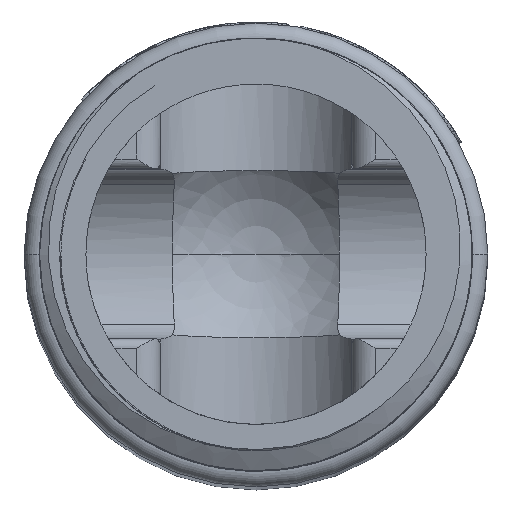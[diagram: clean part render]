
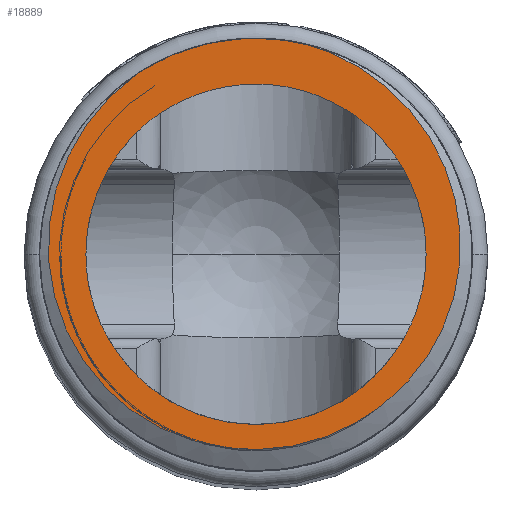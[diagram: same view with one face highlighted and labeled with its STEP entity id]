
A CAD part, top view. The second image highlights one B-rep face of the part: STEP entity #18889.
In plain terms, the highlighted planar face has unit normal (0, 0, 1).
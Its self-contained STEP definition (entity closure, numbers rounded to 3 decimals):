
#5325=CARTESIAN_POINT('',(-4.161,-12.013,78.));
#5326=CARTESIAN_POINT('',(-4.135,-12.02,78.));
#5327=CARTESIAN_POINT('',(-4.082,-12.036,78.));
#5328=CARTESIAN_POINT('',(-3.997,-12.061,78.));
#5329=CARTESIAN_POINT('',(-3.91,-12.085,78.));
#5330=CARTESIAN_POINT('',(-3.825,-12.109,78.));
#5331=CARTESIAN_POINT('',(-3.742,-12.132,78.));
#5332=CARTESIAN_POINT('',(-3.66,-12.154,78.));
#5333=CARTESIAN_POINT('',(-3.576,-12.175,78.));
#5334=CARTESIAN_POINT('',(-3.49,-12.197,78.));
#5335=CARTESIAN_POINT('',(-3.399,-12.22,78.));
#5336=CARTESIAN_POINT('',(-3.302,-12.244,78.));
#5337=CARTESIAN_POINT('',(-3.197,-12.268,78.));
#5338=CARTESIAN_POINT('',(-3.083,-12.294,78.));
#5339=CARTESIAN_POINT('',(-2.956,-12.322,78.));
#5340=CARTESIAN_POINT('',(-2.817,-12.351,78.));
#5341=CARTESIAN_POINT('',(-2.663,-12.381,78.));
#5342=CARTESIAN_POINT('',(-2.492,-12.413,78.));
#5343=CARTESIAN_POINT('',(-2.302,-12.446,78.));
#5344=CARTESIAN_POINT('',(-2.092,-12.478,78.));
#5345=CARTESIAN_POINT('',(-1.86,-12.511,78.));
#5346=CARTESIAN_POINT('',(-1.604,-12.542,78.));
#5347=CARTESIAN_POINT('',(-1.323,-12.571,78.));
#5348=CARTESIAN_POINT('',(-1.014,-12.595,78.));
#5349=CARTESIAN_POINT('',(-0.676,-12.614,78.));
#5350=CARTESIAN_POINT('',(-0.307,-12.625,78.));
#5351=CARTESIAN_POINT('',(0.094,-12.624,78.));
#5352=CARTESIAN_POINT('',(0.523,-12.611,78.));
#5353=CARTESIAN_POINT('',(0.973,-12.582,78.));
#5354=CARTESIAN_POINT('',(1.435,-12.536,78.));
#5355=CARTESIAN_POINT('',(1.903,-12.472,78.));
#5356=CARTESIAN_POINT('',(2.369,-12.391,78.));
#5357=CARTESIAN_POINT('',(2.825,-12.296,78.));
#5358=CARTESIAN_POINT('',(3.266,-12.187,78.));
#5359=CARTESIAN_POINT('',(3.683,-12.069,78.));
#5360=CARTESIAN_POINT('',(4.072,-11.946,78.));
#5361=CARTESIAN_POINT('',(4.432,-11.82,78.));
#5362=CARTESIAN_POINT('',(4.766,-11.693,78.));
#5363=CARTESIAN_POINT('',(5.073,-11.566,78.));
#5364=CARTESIAN_POINT('',(5.357,-11.441,78.));
#5365=CARTESIAN_POINT('',(5.619,-11.319,78.));
#5366=CARTESIAN_POINT('',(5.86,-11.2,78.));
#5367=CARTESIAN_POINT('',(6.081,-11.086,78.));
#5368=CARTESIAN_POINT('',(6.284,-10.976,78.));
#5369=CARTESIAN_POINT('',(6.47,-10.872,78.));
#5370=CARTESIAN_POINT('',(6.642,-10.772,78.));
#5371=CARTESIAN_POINT('',(6.799,-10.678,78.));
#5372=CARTESIAN_POINT('',(6.945,-10.589,78.));
#5373=CARTESIAN_POINT('',(7.078,-10.504,78.));
#5374=CARTESIAN_POINT('',(7.202,-10.424,78.));
#5375=CARTESIAN_POINT('',(7.317,-10.347,78.));
#5376=CARTESIAN_POINT('',(7.425,-10.275,78.));
#5377=CARTESIAN_POINT('',(7.526,-10.205,78.));
#5378=CARTESIAN_POINT('',(7.622,-10.138,78.));
#5379=CARTESIAN_POINT('',(7.712,-10.074,78.));
#5380=CARTESIAN_POINT('',(7.797,-10.013,78.));
#5381=CARTESIAN_POINT('',(7.877,-9.954,78.));
#5382=CARTESIAN_POINT('',(7.953,-9.898,78.));
#5383=CARTESIAN_POINT('',(8.024,-9.845,78.));
#5384=CARTESIAN_POINT('',(8.091,-9.794,78.));
#5385=CARTESIAN_POINT('',(8.153,-9.746,78.));
#5386=CARTESIAN_POINT('',(8.212,-9.701,78.));
#5387=CARTESIAN_POINT('',(8.249,-9.672,78.));
#5388=CARTESIAN_POINT('',(8.267,-9.658,78.));
#5390=CARTESIAN_POINT('',(-7.605,11.754,78.));
#5391=CARTESIAN_POINT('',(-8.173,11.353,78.));
#5392=CARTESIAN_POINT('',(-9.232,10.478,78.));
#5393=CARTESIAN_POINT('',(-10.604,8.957,78.));
#5394=CARTESIAN_POINT('',(-11.736,7.252,78.));
#5395=CARTESIAN_POINT('',(-12.599,5.405,78.));
#5396=CARTESIAN_POINT('',(-13.175,3.47,78.));
#5397=CARTESIAN_POINT('',(-13.459,1.469,78.));
#5398=CARTESIAN_POINT('',(-13.442,-0.536,78.));
#5399=CARTESIAN_POINT('',(-13.13,-2.504,78.));
#5400=CARTESIAN_POINT('',(-12.529,-4.404,78.));
#5401=CARTESIAN_POINT('',(-11.661,-6.174,78.));
#5402=CARTESIAN_POINT('',(-10.539,-7.795,78.));
#5403=CARTESIAN_POINT('',(-9.193,-9.222,78.));
#5404=CARTESIAN_POINT('',(-7.667,-10.418,78.));
#5405=CARTESIAN_POINT('',(-5.967,-11.378,78.));
#5406=CARTESIAN_POINT('',(-4.776,-11.83,78.));
#5407=CARTESIAN_POINT('',(-4.161,-12.013,78.));
#5409=CARTESIAN_POINT('',(0.,0.,78.));
#5410=DIRECTION('',(0.,0.,1.));
#5411=DIRECTION('',(0.198,0.98,0.));
#5412=AXIS2_PLACEMENT_3D('',#5409,#5410,#5411);
#5414=CARTESIAN_POINT('',(8.267,-9.658,78.));
#5415=CARTESIAN_POINT('',(8.773,-9.263,78.));
#5416=CARTESIAN_POINT('',(9.717,-8.405,78.));
#5417=CARTESIAN_POINT('',(10.946,-6.892,78.));
#5418=CARTESIAN_POINT('',(11.93,-5.217,78.));
#5419=CARTESIAN_POINT('',(12.66,-3.4,78.));
#5420=CARTESIAN_POINT('',(13.111,-1.478,78.));
#5421=CARTESIAN_POINT('',(13.272,0.482,78.));
#5422=CARTESIAN_POINT('',(13.136,2.478,78.));
#5423=CARTESIAN_POINT('',(12.706,4.417,78.));
#5424=CARTESIAN_POINT('',(11.986,6.296,78.));
#5425=CARTESIAN_POINT('',(10.99,8.052,78.));
#5426=CARTESIAN_POINT('',(9.748,9.641,78.));
#5427=CARTESIAN_POINT('',(8.26,11.049,78.));
#5428=CARTESIAN_POINT('',(6.595,12.213,78.));
#5429=CARTESIAN_POINT('',(4.747,13.134,78.));
#5430=CARTESIAN_POINT('',(3.449,13.557,78.));
#5431=CARTESIAN_POINT('',(2.779,13.721,78.));
#5433=CARTESIAN_POINT('',(0.,0.,78.));
#5434=DIRECTION('',(0.,0.,1.));
#5435=DIRECTION('',(1.,0.,0.));
#5436=AXIS2_PLACEMENT_3D('',#5433,#5434,#5435);
#5438=CARTESIAN_POINT('',(0.,0.,78.));
#5439=DIRECTION('',(0.,0.,1.));
#5440=DIRECTION('',(-1.,0.,0.));
#5441=AXIS2_PLACEMENT_3D('',#5438,#5439,#5440);
#7447=VERTEX_POINT('',#5325);
#7448=VERTEX_POINT('',#5388);
#7449=VERTEX_POINT('',#5431);
#7450=VERTEX_POINT('',#5390);
#7509=CARTESIAN_POINT('',(11.,0.,78.));
#7510=CARTESIAN_POINT('',(-11.,0.,78.));
#7511=VERTEX_POINT('',#7509);
#7512=VERTEX_POINT('',#7510);
#18869=CARTESIAN_POINT('',(0.,0.,78.));
#18870=DIRECTION('',(0.,0.,1.));
#18871=DIRECTION('',(1.,0.,0.));
#18872=AXIS2_PLACEMENT_3D('',#18869,#18870,#18871);
#18873=PLANE('',#18872);
#18874=ORIENTED_EDGE('',*,*,#18859,.F.);
#18876=ORIENTED_EDGE('',*,*,#18875,.F.);
#18878=ORIENTED_EDGE('',*,*,#18877,.F.);
#18880=ORIENTED_EDGE('',*,*,#18879,.F.);
#18881=EDGE_LOOP('',(#18874,#18876,#18878,#18880));
#18882=FACE_OUTER_BOUND('',#18881,.F.);
#18884=ORIENTED_EDGE('',*,*,#18883,.T.);
#18886=ORIENTED_EDGE('',*,*,#18885,.T.);
#18887=EDGE_LOOP('',(#18884,#18886));
#18888=FACE_BOUND('',#18887,.F.);
#18889=ADVANCED_FACE('',(#18882,#18888),#18873,.T.);
#5389=B_SPLINE_CURVE_WITH_KNOTS('',3,(#5325,#5326,#5327,#5328,#5329,#5330,#5331,
#5332,#5333,#5334,#5335,#5336,#5337,#5338,#5339,#5340,#5341,#5342,#5343,#5344,
#5345,#5346,#5347,#5348,#5349,#5350,#5351,#5352,#5353,#5354,#5355,#5356,#5357,
#5358,#5359,#5360,#5361,#5362,#5363,#5364,#5365,#5366,#5367,#5368,#5369,#5370,
#5371,#5372,#5373,#5374,#5375,#5376,#5377,#5378,#5379,#5380,#5381,#5382,#5383,
#5384,#5385,#5386,#5387,#5388),.UNSPECIFIED.,.F.,.F.,(4,1,1,1,1,1,1,1,1,1,1,1,1,
1,1,1,1,1,1,1,1,1,1,1,1,1,1,1,1,1,1,1,1,1,1,1,1,1,1,1,1,1,1,1,1,1,1,1,1,1,1,1,1,
1,1,1,1,1,1,1,1,4),(0.,0.016,0.033,0.049,
0.066,0.082,0.098,0.115,
0.131,0.148,0.164,0.18,
0.197,0.213,0.23,0.246,
0.262,0.279,0.295,0.311,
0.328,0.344,0.361,0.377,
0.393,0.41,0.426,0.443,
0.459,0.475,0.492,0.508,
0.525,0.541,0.557,0.574,
0.59,0.607,0.623,0.639,
0.656,0.672,0.689,0.705,
0.721,0.738,0.754,0.77,
0.787,0.803,0.82,0.836,
0.852,0.869,0.885,0.902,
0.918,0.934,0.951,0.967,
0.984,1.),.UNSPECIFIED.);
#5408=B_SPLINE_CURVE_WITH_KNOTS('',3,(#5390,#5391,#5392,#5393,#5394,#5395,#5396,
#5397,#5398,#5399,#5400,#5401,#5402,#5403,#5404,#5405,#5406,#5407),
.UNSPECIFIED.,.F.,.F.,(4,1,1,1,1,1,1,1,1,1,1,1,1,1,1,4),(0.,0.067,
0.133,0.2,0.267,0.333,0.4,
0.467,0.533,0.6,0.667,0.733,
0.8,0.867,0.933,1.),.UNSPECIFIED.);
#5413=CIRCLE('',#5412,14.);
#5432=B_SPLINE_CURVE_WITH_KNOTS('',3,(#5414,#5415,#5416,#5417,#5418,#5419,#5420,
#5421,#5422,#5423,#5424,#5425,#5426,#5427,#5428,#5429,#5430,#5431),
.UNSPECIFIED.,.F.,.F.,(4,1,1,1,1,1,1,1,1,1,1,1,1,1,1,4),(0.,0.067,
0.133,0.2,0.267,0.333,0.4,
0.467,0.533,0.6,0.667,0.733,
0.8,0.867,0.933,1.),.UNSPECIFIED.);
#5437=CIRCLE('',#5436,11.);
#5442=CIRCLE('',#5441,11.);
#18859=EDGE_CURVE('',#7447,#7448,#5389,.T.);
#18875=EDGE_CURVE('',#7450,#7447,#5408,.T.);
#18877=EDGE_CURVE('',#7449,#7450,#5413,.T.);
#18879=EDGE_CURVE('',#7448,#7449,#5432,.T.);
#18883=EDGE_CURVE('',#7511,#7512,#5437,.T.);
#18885=EDGE_CURVE('',#7512,#7511,#5442,.T.);
